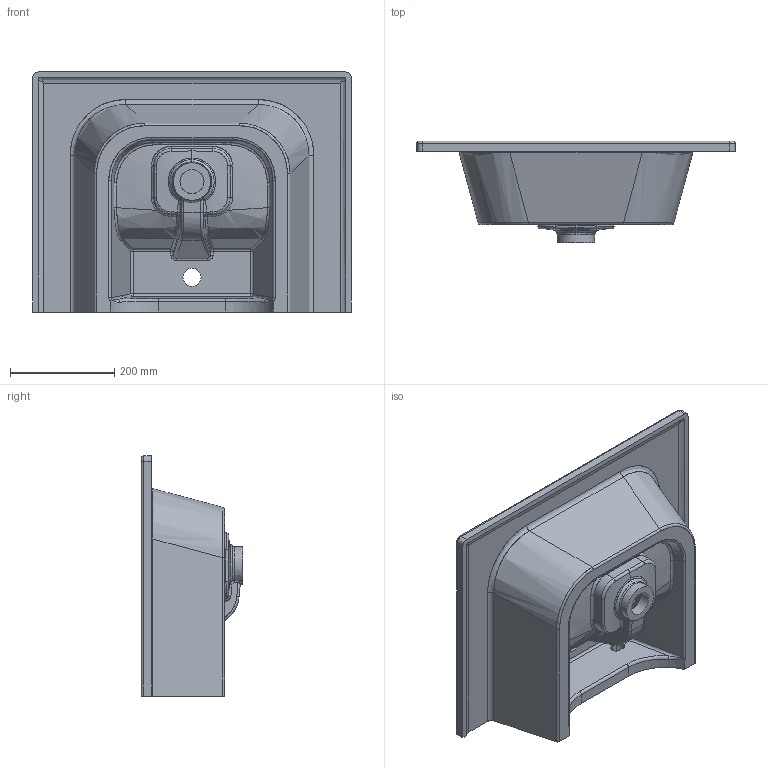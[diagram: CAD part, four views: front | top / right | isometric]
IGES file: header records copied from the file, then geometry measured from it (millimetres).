
Start section: SolidWorks IGES file using analytic representation for surfaces
Global section: file name: C:\Work\OLD 2016\TECLA 2016\THESAN 2016\THESAN IGS\THESAN60.IGS; native system: SolidWorks 2017; preprocessor: SolidWorks 2017; author: utente; date: 170301.184203; units: millimetre
Bounding box: 610 x 195 x 460 mm (x, y, z)
Surface area: 983984.3 mm2 (no closed solid volume)
Topology: 0 solids, 0 shells, 311 faces, 1462 edges, 1434 vertices
Faces by surface type: bspline 180, revolution 131
